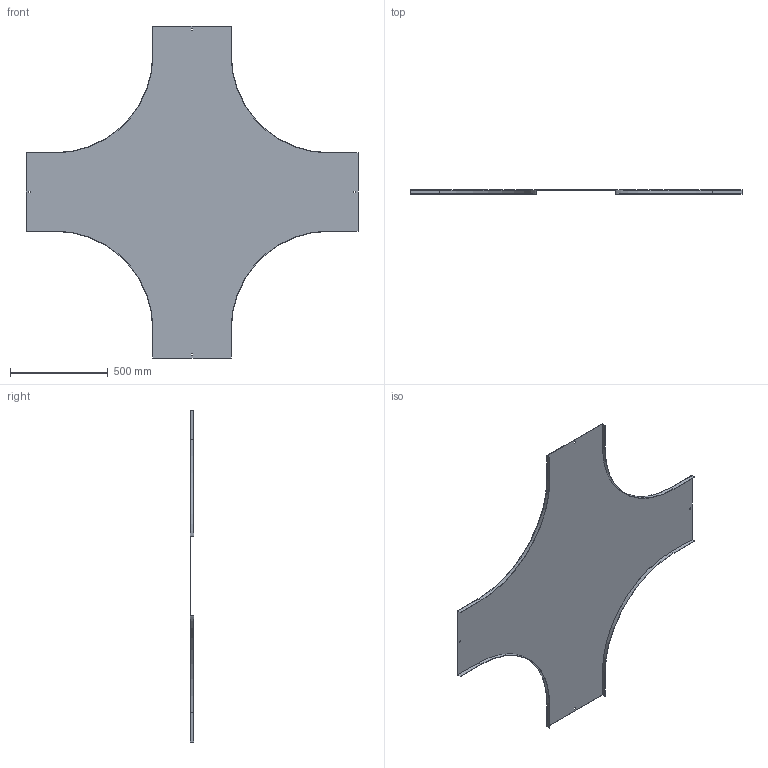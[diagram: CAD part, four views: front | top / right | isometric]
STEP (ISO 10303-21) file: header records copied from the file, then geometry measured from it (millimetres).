
FILE_DESCRIPTION (( 'STEP AP214' ), '1' );
FILE_NAME ('17N5R400.step', '2025-02-21T14:39:17', ( '' ), ( '' ), 'SwSTEP 2.0', 'SolidWorks 2023', '' );
FILE_SCHEMA (( 'AUTOMOTIVE_DESIGN' ));
Length unit declared in the file: millimetre
Products named in the file (1): 17N5R400
Bounding box: 1700 x 20 x 1700 mm (x, y, z)
Volume: 2251658.2 mm3; surface area: 3011535.1 mm2
Topology: 1 solids, 1 shells, 50 faces, 144 edges, 96 vertices
Faces by surface type: plane 42, cylinder 8
Entity records: 1663 total; most frequent: CARTESIAN_POINT 291, ORIENTED_EDGE 288, DIRECTION 262, EDGE_CURVE 144, LINE 128, VECTOR 128, VERTEX_POINT 96, AXIS2_PLACEMENT_3D 67
